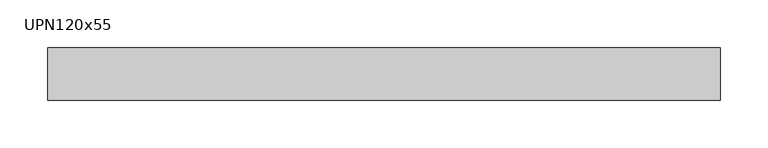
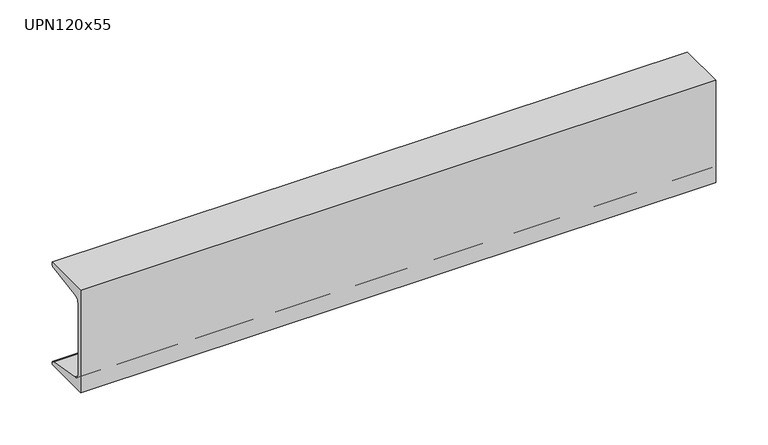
"""IFC4 building model written with IfcOpenShell, lengths in millimetres: beam geometry, M_MC Shapes : UPN120x55."""

from ifc_helpers import new_model, si_unit, point, frame, frame_2d, origin, place, context, project, spatial, polyline, circle_curve, trimmed, segment, composite_curve, outline, extrude, source, transform, mapped, element, save


def upn120x55_69f0bca1(model_context):
    return source(origin(), model_context, "Body", "SweptSolid", [
        extrude(outline(composite_curve([segment(polyline([(-10.9, 60.0), (44.1, 60.0), (44.1, 59.0253247)]), True, "CONTINUOUS"), segment(trimmed(circle_curve(frame_2d((40.15, 59.0253247)), 3.95), [point((44.1, 59.0253247))], [point((40.7993773, 55.1290689))], False, "CARTESIAN"), True, "CONTINUOUS"), segment(polyline([(40.7993773, 55.1290689), (0.2512455, 48.3710335)]), True, "CONTINUOUS"), segment(trimmed(circle_curve(frame_2d((1.55, 40.5785219)), 7.9), [point((0.2512455, 48.3710335))], [point((-6.35, 40.5785219))], True, "CARTESIAN"), True, "CONTINUOUS"), segment(polyline([(-6.35, 40.5785219), (-6.35, -40.5785219)]), True, "CONTINUOUS"), segment(trimmed(circle_curve(frame_2d((1.55, -40.5785219)), 7.9), [point((-6.35, -40.5785219))], [point((0.2512455, -48.3710335))], True, "CARTESIAN"), True, "CONTINUOUS"), segment(polyline([(0.2512455, -48.3710335), (40.7993773, -55.1290689)]), True, "CONTINUOUS"), segment(trimmed(circle_curve(frame_2d((40.15, -59.0253247)), 3.95), [point((40.7993773, -55.1290689))], [point((44.1, -59.0253247))], False, "CARTESIAN"), True, "CONTINUOUS"), segment(polyline([(44.1, -59.0253247), (44.1, -60.0), (-10.9, -60.0), (-10.9, 60.0)]), True, "CONTINUOUS")], self_intersect=False)), frame((-358.9, 0.0, 0.0), z_axis=(1.0, 0.0, 0.0), x_axis=(0.0, 1.0, 0.0)), (0.0, 0.0, 1.0), 705.1),
    ])


if __name__ == "__main__":
    model = new_model("IFC4")
    model_context = context("Model", 3, world=origin())
    ifc_project = project(units=[si_unit("LENGTHUNIT", "METRE", prefix="MILLI")], contexts=[model_context])
    site = spatial("IfcSite", under=ifc_project)
    building = spatial("IfcBuilding", under=site)
    placement = place(None, origin())
    upn120x55_shape = upn120x55_69f0bca1(model_context)
    element("IfcBeam", 1, ObjectType="M_MC Shapes : UPN120x55", at=placement, inside=building, context=model_context, shape_type="MappedRepresentation", body=[
        mapped(upn120x55_shape, transform((0.0, 0.0, 0.0), x_axis=(1.0, 0.0, 0.0), y_axis=(0.0, 1.0, 0.0), z_axis=(0.0, 0.0, 1.0))),
    ])
    save(model, "model.ifc")
